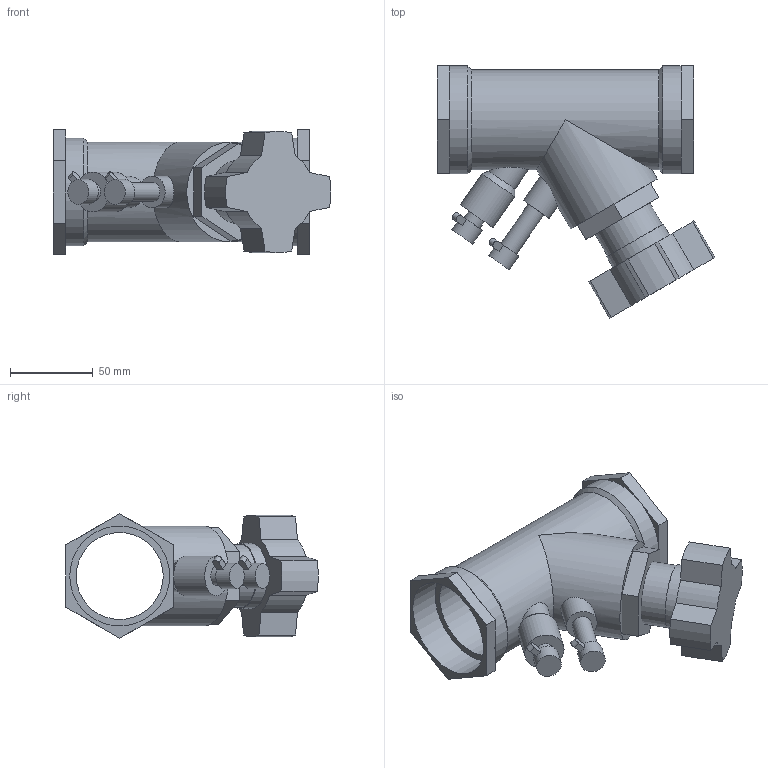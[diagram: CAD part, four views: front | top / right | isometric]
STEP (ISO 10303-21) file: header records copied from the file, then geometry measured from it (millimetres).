
FILE_DESCRIPTION(/* description */ ('VIC VALVE BALANCING TA SERIES 790 (FPT)-POTABLE WATER','CAx-IF Rec.Pracs.---Representation and Presentation of Product Manufacturing Information (PMI)---4.0---2014-10-13'),/* implementation_level */ '2;1');
FILE_NAME(/* name */ 'C:\Users\Vjadhav\Desktop\CAD for Inventor\1\790, 76X\STEP\Victaulic_IPS_Valve Balancing_TA Series 790 (FPT)-Potable Water\Victaulic_IPS_Valve Balancing_TA Series 790 (FPT)-Potable Water_2 (50).stp',/* time_stamp */ '2021-08-02T10:58:59+05:00',/* author */ ('cps_temp'),/* organization */ ('Victaulic'),/* preprocessor_version */ 'ST-DEVELOPER v17.2',/* originating_system */ 'Autodesk Inventor 2019',/* authorisation */ '');
FILE_SCHEMA (('AP242_MANAGED_MODEL_BASED_3D_ENGINEERING_MIM_LF { 1 0 10303 442 1 1 4 }'));
Length unit declared in the file: inch
Products named in the file (1): 790-02.0
Bounding box: 167.84 x 152.36 x 75.14 mm (x, y, z)
Volume: 338278.3 mm3; surface area: 87096.6 mm2
Topology: 1 solids, 1 shells, 88 faces, 222 edges, 147 vertices
Faces by surface type: plane 59, cylinder 26, cone 3
Full cylindrical faces by diameter (mm): 11.43 x2, 15.24 x2, 19.05 x2, 24.13 x1, 38.1 x1, 39.37 x1, 52.502 x1, 60.325 x4, 65.075 x2
Entity records: 2978 total; most frequent: CARTESIAN_POINT 548, DIRECTION 503, ORIENTED_EDGE 444, EDGE_CURVE 222, AXIS2_PLACEMENT_3D 184, VERTEX_POINT 147, LINE 135, VECTOR 135
